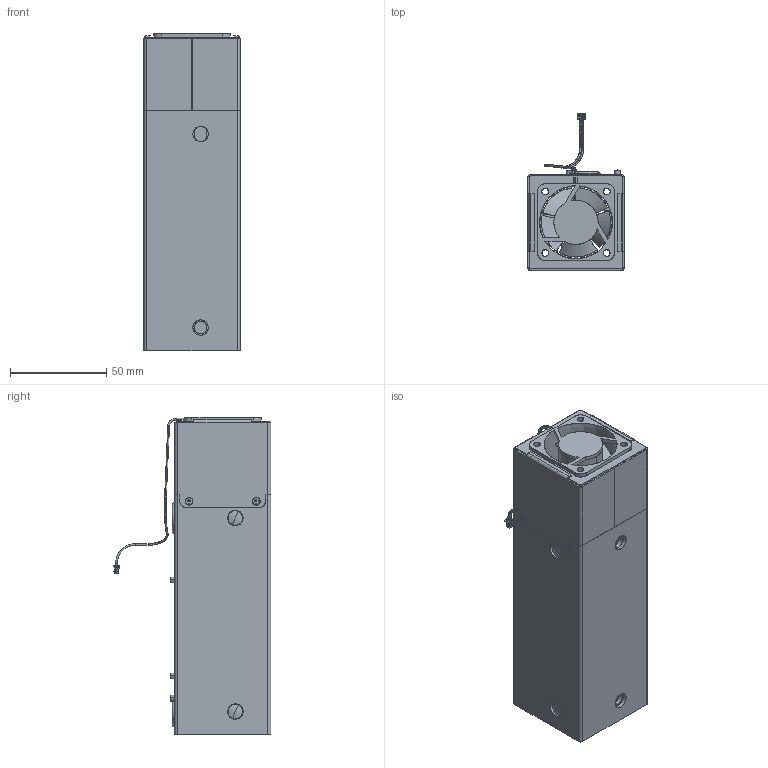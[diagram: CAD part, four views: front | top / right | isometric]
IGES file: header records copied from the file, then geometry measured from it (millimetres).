
Start section: SolidWorks IGES file using analytic representation for surfaces
Global section: file name: P:\Produkte\nextGen\3D CAD\Obis Heat Sink.IGS; native system: SolidWorks 2011; preprocessor: SolidWorks 2011; author: SachP; date: 110421.162605; units: millimetre
Bounding box: 50 x 81.94 x 165.2 mm (x, y, z)
Surface area: 162882.3 mm2 (no closed solid volume)
Topology: 0 solids, 0 shells, 1285 faces, 15446 edges, 15421 vertices
Faces by surface type: bspline 655, revolution 630
